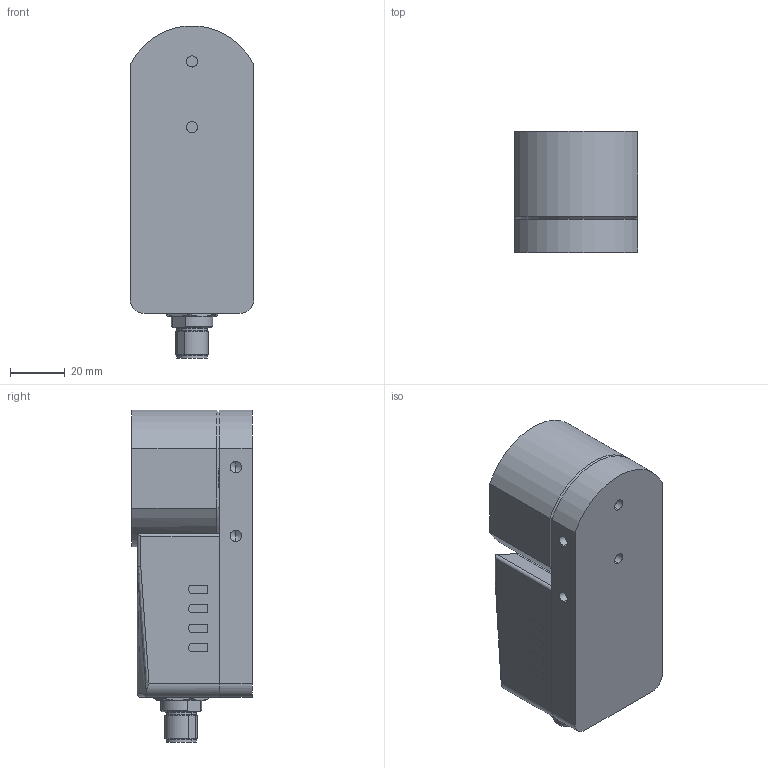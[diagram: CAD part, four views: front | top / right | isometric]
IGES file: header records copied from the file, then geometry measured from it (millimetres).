
Global section: file name: No Iges File Name specified; native system: Autodesk Inventor 2010; preprocessor: AutoDesk Inventor Iges Exporter R2010; author: pschmucki; date: 20110920.121810; units: millimetre
Bounding box: 45 x 44 x 121.16 mm (x, y, z)
Volume: 187858.9 mm3; surface area: 25913.3 mm2
Topology: 1 solids, 3 shells, 373 faces, 936 edges, 579 vertices
Faces by surface type: plane 161, cylinder 78, bspline 56, revolution 44, cone 25, torus 9
